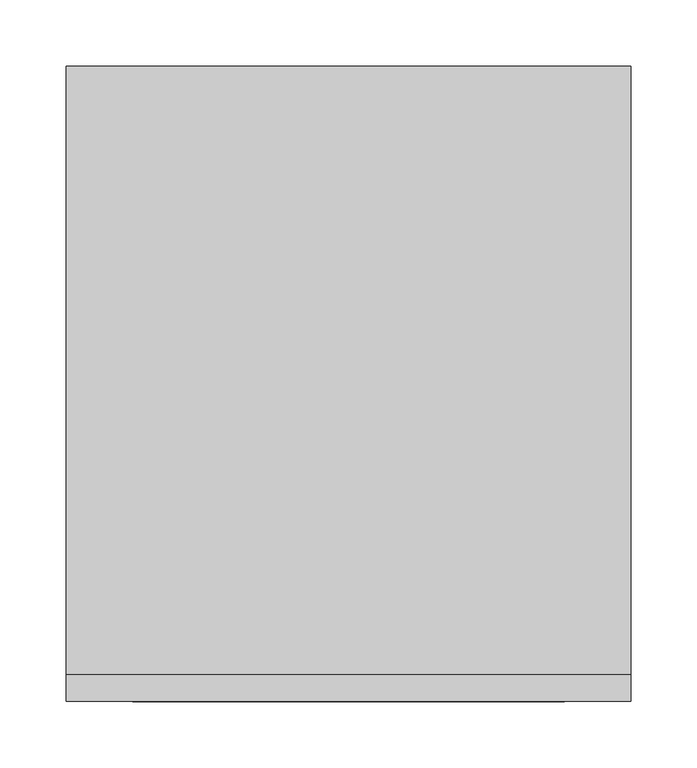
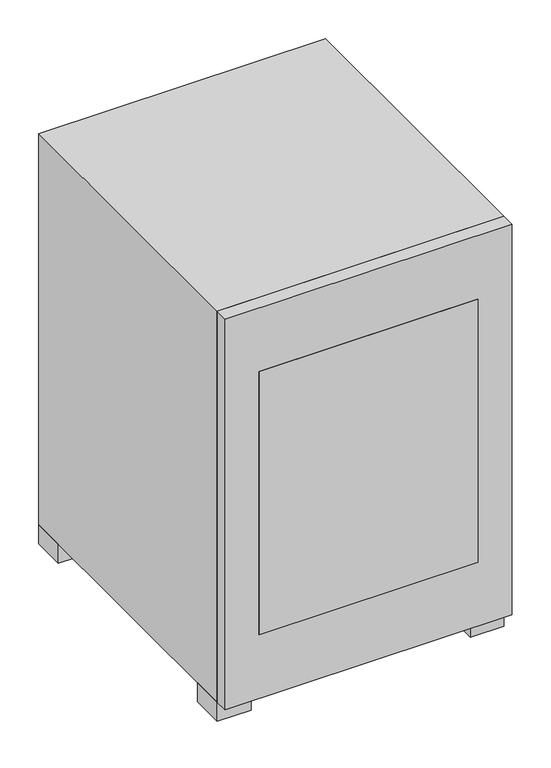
"""IFC4 building model written with IfcOpenShell, lengths in millimetres: proxy geometry, ZKes 453_136 : WKes 653."""

from ifc_helpers import new_model, si_unit, point, frame, frame_2d, origin, place, context, project, spatial, polyline, circle_curve, trimmed, segment, composite_curve, outline, extrude, faceted_brep, source, transform, mapped, element, save


def specialty_equipment_4a262d58(model_context):
    return source(origin(), model_context, "Body", "SolidModel", [
        extrude(outline(polyline([(-630.1654309, -79.8345306), (-630.1654309, -204.8345306), (-630.1654309, -487.8345306), (-955.1654309, -487.8345306), (-955.1654309, -79.8345306), (-630.1654309, -79.8345306)]), holes=[polyline([(-874.9506792, -109.8345306), (-924.9426337, -109.8345306), (-924.9426337, -457.8345306), (-889.9506792, -457.8345306), (-874.9506792, -457.8345306), (-874.9506792, -109.8345306)]), polyline([(-859.2621045, -457.8345306), (-794.9506792, -457.8345306), (-794.9506792, -109.8345306), (-859.2621045, -109.8345306), (-859.2621045, -457.8345306)]), polyline([(-779.2621045, -457.8345306), (-729.9506792, -457.8345306), (-729.9506792, -109.8345306), (-779.2621045, -109.8345306), (-779.2621045, -457.8345306)]), polyline([(-660.1654309, -109.8345306), (-714.2621045, -109.8345306), (-714.2621045, -457.8345306), (-660.1654309, -457.8345306), (-660.1654309, -109.8345306)])]), frame((0.0, 0.0, 1016.3115844), z_axis=(0.0, 0.0, 1.0), x_axis=(1.0, 0.0, 0.0)), (0.0, 0.0, 1.0), 15.5016673),
        extrude(outline(polyline([(-630.1654309, -79.8345306), (-630.1654309, -204.8345306), (-630.1654309, -487.8345306), (-955.1654309, -487.8345306), (-955.1654309, -79.8345306), (-630.1654309, -79.8345306)]), holes=[polyline([(-874.9506792, -109.8345306), (-924.9426337, -109.8345306), (-924.9426337, -457.8345306), (-889.9506792, -457.8345306), (-874.9506792, -457.8345306), (-874.9506792, -109.8345306)]), polyline([(-859.2621045, -457.8345306), (-794.9506792, -457.8345306), (-794.9506792, -109.8345306), (-859.2621045, -109.8345306), (-859.2621045, -457.8345306)]), polyline([(-779.2621045, -457.8345306), (-729.9506792, -457.8345306), (-729.9506792, -109.8345306), (-779.2621045, -109.8345306), (-779.2621045, -457.8345306)]), polyline([(-660.1654309, -109.8345306), (-714.2621045, -109.8345306), (-714.2621045, -457.8345306), (-660.1654309, -457.8345306), (-660.1654309, -109.8345306)])]), frame((0.0, 0.0, 907.8032887), z_axis=(0.0, 0.0, 1.0), x_axis=(1.0, 0.0, 0.0)), (0.0, 0.0, 1.0), 20.0),
        extrude(outline(polyline([(-630.1654309, -79.8345306), (-630.1654309, -204.8345306), (-630.1654309, -487.8345306), (-955.1654309, -487.8345306), (-955.1654309, -79.8345306), (-630.1654309, -79.8345306)]), holes=[polyline([(-874.9506792, -109.8345306), (-924.9426337, -109.8345306), (-924.9426337, -457.8345306), (-889.9506792, -457.8345306), (-874.9506792, -457.8345306), (-874.9506792, -109.8345306)]), polyline([(-859.2621045, -457.8345306), (-794.9506792, -457.8345306), (-794.9506792, -109.8345306), (-859.2621045, -109.8345306), (-859.2621045, -457.8345306)]), polyline([(-779.2621045, -457.8345306), (-729.9506792, -457.8345306), (-729.9506792, -109.8345306), (-779.2621045, -109.8345306), (-779.2621045, -457.8345306)]), polyline([(-660.1654309, -109.8345306), (-714.2621045, -109.8345306), (-714.2621045, -457.8345306), (-660.1654309, -457.8345306), (-660.1654309, -109.8345306)])]), frame((0.0, 0.0, 802.8032887), z_axis=(0.0, 0.0, 1.0), x_axis=(1.0, 0.0, 0.0)), (0.0, 0.0, 1.0), 20.0),
        extrude(outline(polyline([(-734.1706936, -489.1281118), (-779.1706936, -489.1281118), (-779.1706936, -487.8345306), (-734.1706936, -487.8345306), (-734.1706936, -489.1281118)])), frame((0.0, 0.0, 758.1903012), z_axis=(0.0, 0.0, 1.0), x_axis=(1.0, 0.0, 0.0)), (0.0, 0.0, 1.0), 35.5400038),
        extrude(outline(composite_curve([segment(trimmed(circle_curve(frame_2d((783.7303051, -868.253005)), 2.9821857), [point((783.7303051, -871.2351907))], [point((783.7303051, -865.2708192))], False, "CARTESIAN"), True, "CONTINUOUS"), segment(trimmed(circle_curve(frame_2d((783.7303051, -868.253005)), 2.9821857), [point((783.7303051, -865.2708192))], [point((783.7303051, -871.2351907))], False, "CARTESIAN"), True, "CONTINUOUS")], self_intersect=False)), frame((0.0, -489.1281118, 0.0), z_axis=(0.0, 1.0, 0.0), x_axis=(0.0, 0.0, 1.0)), (0.0, 0.0, 1.0), 1.2935812),
        extrude(outline(composite_curve([segment(trimmed(circle_curve(frame_2d((783.7303051, -853.253005)), 2.9821857), [point((783.7303051, -856.2351907))], [point((783.7303051, -850.2708192))], False, "CARTESIAN"), True, "CONTINUOUS"), segment(trimmed(circle_curve(frame_2d((783.7303051, -853.253005)), 2.9821857), [point((783.7303051, -850.2708192))], [point((783.7303051, -856.2351907))], False, "CARTESIAN"), True, "CONTINUOUS")], self_intersect=False)), frame((0.0, -489.1281118, 0.0), z_axis=(0.0, 1.0, 0.0), x_axis=(0.0, 0.0, 1.0)), (0.0, 0.0, 1.0), 1.2935812),
        extrude(outline(composite_curve([segment(trimmed(circle_curve(frame_2d((783.7303051, -838.253005)), 2.9821857), [point((783.7303051, -841.2351907))], [point((783.7303051, -835.2708192))], False, "CARTESIAN"), True, "CONTINUOUS"), segment(trimmed(circle_curve(frame_2d((783.7303051, -838.253005)), 2.9821857), [point((783.7303051, -835.2708192))], [point((783.7303051, -841.2351907))], False, "CARTESIAN"), True, "CONTINUOUS")], self_intersect=False)), frame((0.0, -489.1281118, 0.0), z_axis=(0.0, 1.0, 0.0), x_axis=(0.0, 0.0, 1.0)), (0.0, 0.0, 1.0), 1.2935812),
        extrude(outline(composite_curve([segment(trimmed(circle_curve(frame_2d((783.7303051, -823.253005)), 2.9821857), [point((783.7303051, -826.2351907))], [point((783.7303051, -820.2708192))], False, "CARTESIAN"), True, "CONTINUOUS"), segment(trimmed(circle_curve(frame_2d((783.7303051, -823.253005)), 2.9821857), [point((783.7303051, -820.2708192))], [point((783.7303051, -826.2351907))], False, "CARTESIAN"), True, "CONTINUOUS")], self_intersect=False)), frame((0.0, -489.1281118, 0.0), z_axis=(0.0, 1.0, 0.0), x_axis=(0.0, 0.0, 1.0)), (0.0, 0.0, 1.0), 1.2935812),
        extrude(outline(composite_curve([segment(trimmed(circle_curve(frame_2d((757.8969684, -699.2159854)), 2.9821857), [point((757.8969684, -702.1981711))], [point((757.8969684, -696.2337996))], False, "CARTESIAN"), True, "CONTINUOUS"), segment(trimmed(circle_curve(frame_2d((757.8969684, -699.2159854)), 2.9821857), [point((757.8969684, -696.2337996))], [point((757.8969684, -702.1981711))], False, "CARTESIAN"), True, "CONTINUOUS")], self_intersect=False)), frame((0.0, -489.1281118, 0.0), z_axis=(0.0, 1.0, 0.0), x_axis=(0.0, 0.0, 1.0)), (0.0, 0.0, 1.0), 1.2935812),
        extrude(outline(composite_curve([segment(trimmed(circle_curve(frame_2d((757.8969684, -684.2159854)), 2.9821857), [point((757.8969684, -687.1981711))], [point((757.8969684, -681.2337996))], False, "CARTESIAN"), True, "CONTINUOUS"), segment(trimmed(circle_curve(frame_2d((757.8969684, -684.2159854)), 2.9821857), [point((757.8969684, -681.2337996))], [point((757.8969684, -687.1981711))], False, "CARTESIAN"), True, "CONTINUOUS")], self_intersect=False)), frame((0.0, -489.1281118, 0.0), z_axis=(0.0, 1.0, 0.0), x_axis=(0.0, 0.0, 1.0)), (0.0, 0.0, 1.0), 1.2935812),
        extrude(outline(composite_curve([segment(trimmed(circle_curve(frame_2d((757.8969684, -669.2159854)), 2.9821857), [point((757.8969684, -672.1981711))], [point((757.8969684, -666.2337996))], False, "CARTESIAN"), True, "CONTINUOUS"), segment(trimmed(circle_curve(frame_2d((757.8969684, -669.2159854)), 2.9821857), [point((757.8969684, -666.2337996))], [point((757.8969684, -672.1981711))], False, "CARTESIAN"), True, "CONTINUOUS")], self_intersect=False)), frame((0.0, -489.1281118, 0.0), z_axis=(0.0, 1.0, 0.0), x_axis=(0.0, 0.0, 1.0)), (0.0, 0.0, 1.0), 1.2935812),
        extrude(outline(composite_curve([segment(trimmed(circle_curve(frame_2d((757.8969684, -654.2159854)), 2.9821857), [point((757.8969684, -657.1981711))], [point((757.8969684, -651.2337996))], False, "CARTESIAN"), True, "CONTINUOUS"), segment(trimmed(circle_curve(frame_2d((757.8969684, -654.2159854)), 2.9821857), [point((757.8969684, -651.2337996))], [point((757.8969684, -657.1981711))], False, "CARTESIAN"), True, "CONTINUOUS")], self_intersect=False)), frame((0.0, -489.1281118, 0.0), z_axis=(0.0, 1.0, 0.0), x_axis=(0.0, 0.0, 1.0)), (0.0, 0.0, 1.0), 1.2935812),
        extrude(outline(polyline([(-891.7948987, -489.1281118), (-943.0448987, -489.1281118), (-943.0448987, -487.8345306), (-891.7948987, -487.8345306), (-891.7948987, -489.1281118)])), frame((0.0, 0.0, 788.7303051), z_axis=(0.0, 0.0, 1.0), x_axis=(1.0, 0.0, 0.0)), (0.0, 0.0, 1.0), 5.0),
        extrude(outline(polyline([(-630.1654309, -487.8345306), (-955.1654309, -487.8345306), (-955.1654309, -79.8345306), (-630.1654309, -79.8345306), (-630.1654309, -487.8345306)])), frame((0.0, 0.0, 743.507165), z_axis=(0.0, 0.0, 1.0), x_axis=(1.0, 0.0, 0.0)), (0.0, 0.0, 1.0), 59.2961238),
        extrude(outline(polyline([(-625.0, -507.8345306), (-950.0, -507.8345306), (-950.0, -487.8345306), (-625.0, -487.8345306), (-625.0, -507.8345306)])), frame((0.0, 0.0, 704.8132517), z_axis=(0.0, 0.0, 1.0), x_axis=(1.0, 0.0, 0.0)), (0.0, 0.0, 1.0), 412.0),
        extrude(outline(polyline([(1216.8132517, -575.0), (1216.8132517, -1000.0), (604.8132517, -1000.0), (604.8132517, -575.0), (1216.8132517, -575.0)]), holes=[polyline([(1116.8132517, -950.0), (1116.8132517, -625.0), (704.8132517, -625.0), (704.8132517, -950.0), (1116.8132517, -950.0)])]), frame((0.0, -507.8345306, 0.0), z_axis=(0.0, 1.0, 0.0), x_axis=(0.0, 0.0, 1.0)), (0.0, 0.0, 1.0), 20.0),
        faceted_brep([(-575.0, -487.8345306, 1216.8132517), (-1000.0, -487.8345306, 1216.8132517), (-1000.0, -487.8345306, 604.8132517), (-575.0, -487.8345306, 604.8132517), (-950.0, -487.8345306, 1116.8132517), (-625.0, -487.8345306, 1116.8132517), (-625.0, -487.8345306, 704.8132517), (-950.0, -487.8345306, 704.8132517), (-575.0, -29.8345306, 1216.8132517), (-575.0, -29.8345306, 604.8132517), (-1000.0, -29.8345306, 604.8132517), (-1000.0, -29.8345306, 1216.8132517), (-625.0, -79.8345306, 1116.8132517), (-950.0, -79.8345306, 1116.8132517), (-950.0, -79.8345306, 704.8132517), (-625.0, -79.8345306, 704.8132517)], [[[0, 1, 2, 3], [4, 5, 6, 7]], [[8, 9, 10, 11]], [[1, 0, 8, 11]], [[2, 1, 11, 10]], [[3, 2, 10, 9]], [[0, 3, 9, 8]], [[12, 13, 14, 15]], [[13, 12, 5, 4]], [[14, 13, 4, 7]], [[15, 14, 7, 6]], [[12, 15, 6, 5]]]),
        extrude(outline(polyline([(-575.0, -437.8345306), (-575.0, -487.8345306), (-625.0, -487.8345306), (-625.0, -437.8345306), (-575.0, -437.8345306)])), frame((0.0, 0.0, 574.8132517), z_axis=(0.0, 0.0, 1.0), x_axis=(1.0, 0.0, 0.0)), (0.0, 0.0, 1.0), 30.0),
        extrude(outline(polyline([(-575.0, -29.8345306), (-575.0, -79.8345306), (-625.0, -79.8345306), (-625.0, -29.8345306), (-575.0, -29.8345306)])), frame((0.0, 0.0, 574.8132517), z_axis=(0.0, 0.0, 1.0), x_axis=(1.0, 0.0, 0.0)), (0.0, 0.0, 1.0), 30.0),
        extrude(outline(polyline([(-950.0, -29.8345306), (-950.0, -79.8345306), (-1000.0, -79.8345306), (-1000.0, -29.8345306), (-950.0, -29.8345306)])), frame((0.0, 0.0, 574.8132517), z_axis=(0.0, 0.0, 1.0), x_axis=(1.0, 0.0, 0.0)), (0.0, 0.0, 1.0), 30.0),
        extrude(outline(polyline([(-950.0, -437.8345306), (-950.0, -487.8345306), (-1000.0, -487.8345306), (-1000.0, -437.8345306), (-950.0, -437.8345306)])), frame((0.0, 0.0, 574.8132517), z_axis=(0.0, 0.0, 1.0), x_axis=(1.0, 0.0, 0.0)), (0.0, 0.0, 1.0), 30.0),
    ])


if __name__ == "__main__":
    model = new_model("IFC4")
    model_context = context("Model", 3, world=origin())
    ifc_project = project(units=[si_unit("LENGTHUNIT", "METRE", prefix="MILLI")], contexts=[model_context])
    site = spatial("IfcSite", under=ifc_project)
    building = spatial("IfcBuilding", under=site)
    placement = place(None, origin())
    specialty_equipment_shape = specialty_equipment_4a262d58(model_context)
    element("IfcBuildingElementProxy", 1, Name="ZKes 453_136 : WKes 653", ObjectType="ZKes 453_136 : WKes 653", at=placement, inside=building, context=model_context, shape_type="MappedRepresentation", body=[
        mapped(specialty_equipment_shape, transform((0.0, 0.0, 0.0), x_axis=(1.0, 0.0, 0.0), y_axis=(0.0, 1.0, 0.0), z_axis=(0.0, 0.0, 1.0))),
    ])
    save(model, "model.ifc")
